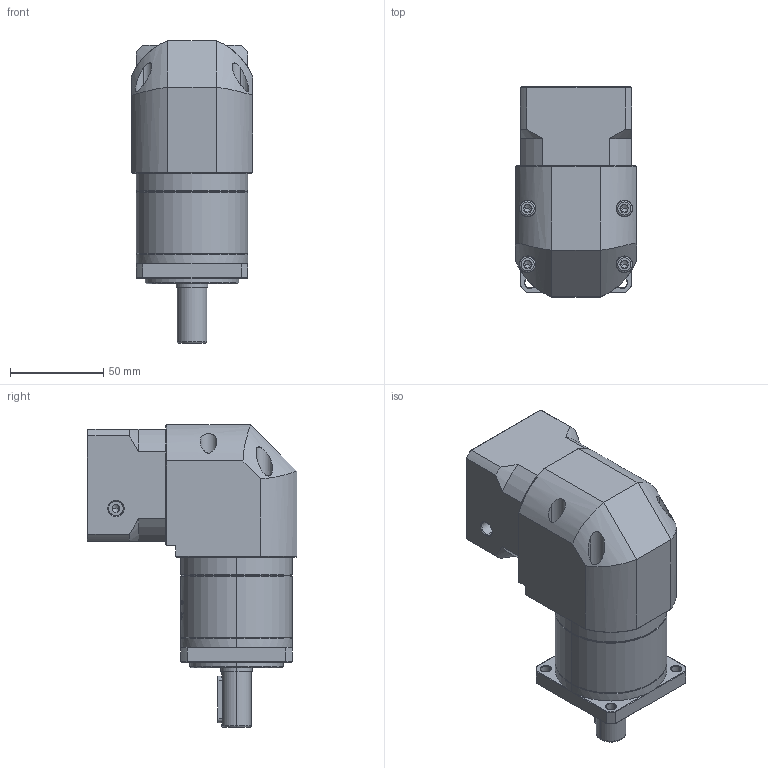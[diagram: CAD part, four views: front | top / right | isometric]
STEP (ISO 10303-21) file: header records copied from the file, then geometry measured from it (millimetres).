
FILE_DESCRIPTION (( 'STEP AP214' ), '1' );
FILE_NAME ('ZFR060-D16-L1-P2-14-50-70-M5.step', '2023-08-17T03:33:46', ( '' ), ( '' ), 'SwSTEP 2.0', 'SolidWorks 2016', '' );
FILE_SCHEMA (( 'AUTOMOTIVE_DESIGN' ));
Length unit declared in the file: millimetre
Products named in the file (1): ZFR060-D16-L1-P2-14-50-70-M5
Bounding box: 65 x 112.7 x 162.5 mm (x, y, z)
Volume: 537860.7 mm3; surface area: 78709 mm2
Topology: 5 solids, 6 shells, 1922 faces, 5125 edges, 3300 vertices
Faces by surface type: plane 847, cylinder 407, bspline 366, cone 290, torus 12
Entity records: 106766 total; most frequent: CARTESIAN_POINT 42012, ORIENTED_EDGE 10206, DIRECTION 7580, EDGE_CURVE 5103, VERTEX_POINT 3300, VECTOR 2614, LINE 2614, AXIS2_PLACEMENT_3D 2483
